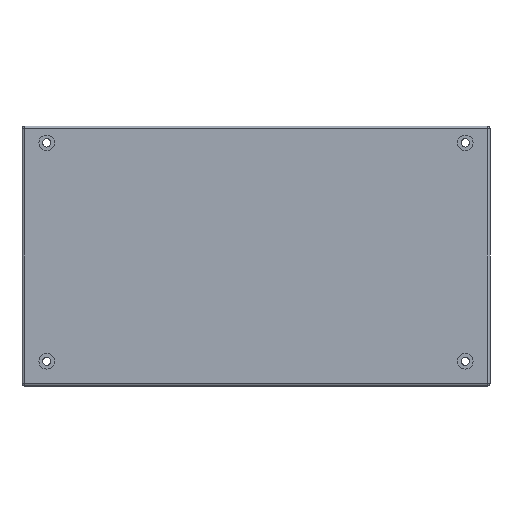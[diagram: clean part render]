
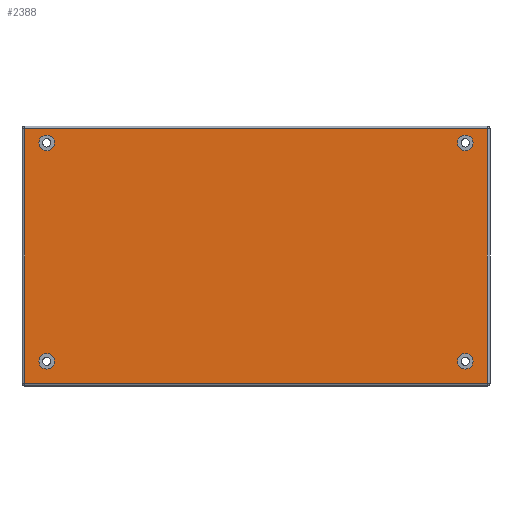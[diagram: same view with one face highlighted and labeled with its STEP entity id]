
A CAD part, front view. The second image highlights one B-rep face of the part: STEP entity #2388.
In plain terms, the highlighted planar face has unit normal (0, -1, 0).
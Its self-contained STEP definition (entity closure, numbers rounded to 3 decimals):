
#34 = CARTESIAN_POINT ( 'NONE',  ( 0., 0., 0. ) ) ;
#75 = DIRECTION ( 'NONE',  ( 0., 0., -1. ) ) ;
#102 = ORIENTED_EDGE ( 'NONE', *, *, #1870, .F. ) ;
#172 = ORIENTED_EDGE ( 'NONE', *, *, #2881, .F. ) ;
#174 = EDGE_CURVE ( 'NONE', #2282, #2298, #2022, .T. ) ;
#187 = CARTESIAN_POINT ( 'NONE',  ( -90., 0., 49. ) ) ;
#253 = EDGE_LOOP ( 'NONE', ( #3652, #172 ) ) ;
#306 = AXIS2_PLACEMENT_3D ( 'NONE', #323, #1641, #2573 ) ;
#323 = CARTESIAN_POINT ( 'NONE',  ( 80.5, 0., 43.5 ) ) ;
#365 = FACE_BOUND ( 'NONE', #937, .T. ) ;
#366 = ORIENTED_EDGE ( 'NONE', *, *, #756, .F. ) ;
#407 = ORIENTED_EDGE ( 'NONE', *, *, #2855, .F. ) ;
#415 = AXIS2_PLACEMENT_3D ( 'NONE', #3696, #3107, #75 ) ;
#422 = EDGE_CURVE ( 'NONE', #2130, #2420, #3293, .T. ) ;
#432 = VECTOR ( 'NONE', #2194, 1000. ) ;
#494 = CARTESIAN_POINT ( 'NONE',  ( -80.5, 0., 40.5 ) ) ;
#756 = EDGE_CURVE ( 'NONE', #2298, #2282, #2425, .T. ) ;
#764 = DIRECTION ( 'NONE',  ( 0., 0., 1. ) ) ;
#811 = VERTEX_POINT ( 'NONE', #494 ) ;
#866 = EDGE_CURVE ( 'NONE', #887, #2130, #1722, .T. ) ;
#887 = VERTEX_POINT ( 'NONE', #1079 ) ;
#935 = AXIS2_PLACEMENT_3D ( 'NONE', #4348, #2931, #4254 ) ;
#937 = EDGE_LOOP ( 'NONE', ( #2259, #102 ) ) ;
#951 = EDGE_LOOP ( 'NONE', ( #1349, #4182, #1715, #2536 ) ) ;
#1025 = FACE_BOUND ( 'NONE', #253, .T. ) ;
#1079 = CARTESIAN_POINT ( 'NONE',  ( -89., 0., 49. ) ) ;
#1089 = DIRECTION ( 'NONE',  ( 0., -1., 0. ) ) ;
#1146 = CIRCLE ( 'NONE', #306, 3. ) ;
#1196 = DIRECTION ( 'NONE',  ( 0., -1., 0. ) ) ;
#1197 = CARTESIAN_POINT ( 'NONE',  ( 89., 0., 49. ) ) ;
#1227 = VERTEX_POINT ( 'NONE', #3221 ) ;
#1276 = AXIS2_PLACEMENT_3D ( 'NONE', #1292, #1597, #2961 ) ;
#1292 = CARTESIAN_POINT ( 'NONE',  ( -80.5, 0., -40.5 ) ) ;
#1349 = ORIENTED_EDGE ( 'NONE', *, *, #4187, .T. ) ;
#1389 = VECTOR ( 'NONE', #2945, 1000. ) ;
#1398 = EDGE_CURVE ( 'NONE', #2964, #1227, #4350, .T. ) ;
#1402 = AXIS2_PLACEMENT_3D ( 'NONE', #1456, #2497, #2440 ) ;
#1456 = CARTESIAN_POINT ( 'NONE',  ( 80.5, 0., 43.5 ) ) ;
#1513 = ORIENTED_EDGE ( 'NONE', *, *, #174, .F. ) ;
#1531 = DIRECTION ( 'NONE',  ( -1., 0., 0. ) ) ;
#1532 = CIRCLE ( 'NONE', #1402, 3. ) ;
#1597 = DIRECTION ( 'NONE',  ( 0., -1., 0. ) ) ;
#1641 = DIRECTION ( 'NONE',  ( 0., -1., 0. ) ) ;
#1715 = ORIENTED_EDGE ( 'NONE', *, *, #866, .T. ) ;
#1722 = LINE ( 'NONE', #4189, #432 ) ;
#1817 = AXIS2_PLACEMENT_3D ( 'NONE', #1950, #1196, #3300 ) ;
#1870 = EDGE_CURVE ( 'NONE', #3496, #3843, #1146, .T. ) ;
#1933 = EDGE_CURVE ( 'NONE', #2111, #811, #3894, .T. ) ;
#1950 = CARTESIAN_POINT ( 'NONE',  ( 80.5, 0., -40.5 ) ) ;
#2022 = CIRCLE ( 'NONE', #2651, 3. ) ;
#2041 = CARTESIAN_POINT ( 'NONE',  ( -80.5, 0., 43.5 ) ) ;
#2048 = FACE_BOUND ( 'NONE', #4240, .T. ) ;
#2111 = VERTEX_POINT ( 'NONE', #2468 ) ;
#2124 = CARTESIAN_POINT ( 'NONE',  ( 80.5, 0., 40.5 ) ) ;
#2130 = VERTEX_POINT ( 'NONE', #2525 ) ;
#2176 = CIRCLE ( 'NONE', #4200, 3. ) ;
#2194 = DIRECTION ( 'NONE',  ( 0., 0., -1. ) ) ;
#2236 = CARTESIAN_POINT ( 'NONE',  ( -80.5, 0., -43.5 ) ) ;
#2259 = ORIENTED_EDGE ( 'NONE', *, *, #2918, .F. ) ;
#2279 = ORIENTED_EDGE ( 'NONE', *, *, #1933, .F. ) ;
#2282 = VERTEX_POINT ( 'NONE', #2236 ) ;
#2290 = LINE ( 'NONE', #3118, #3351 ) ;
#2298 = VERTEX_POINT ( 'NONE', #2904 ) ;
#2388 = ADVANCED_FACE ( 'NONE', ( #3766, #2048, #1025, #365, #2708 ), #3396, .T. ) ;
#2402 = CARTESIAN_POINT ( 'NONE',  ( 89., 0., -49. ) ) ;
#2420 = VERTEX_POINT ( 'NONE', #2402 ) ;
#2425 = CIRCLE ( 'NONE', #1276, 3. ) ;
#2440 = DIRECTION ( 'NONE',  ( 0., 0., -1. ) ) ;
#2444 = DIRECTION ( 'NONE',  ( 0., 0., -1. ) ) ;
#2468 = CARTESIAN_POINT ( 'NONE',  ( -80.5, 0., 46.5 ) ) ;
#2497 = DIRECTION ( 'NONE',  ( 0., -1., 0. ) ) ;
#2525 = CARTESIAN_POINT ( 'NONE',  ( -89., 0., -49. ) ) ;
#2533 = CARTESIAN_POINT ( 'NONE',  ( 80.5, 0., 46.5 ) ) ;
#2536 = ORIENTED_EDGE ( 'NONE', *, *, #422, .T. ) ;
#2573 = DIRECTION ( 'NONE',  ( 0., 0., -1. ) ) ;
#2586 = CARTESIAN_POINT ( 'NONE',  ( 90., 0., -49. ) ) ;
#2651 = AXIS2_PLACEMENT_3D ( 'NONE', #3321, #4338, #2685 ) ;
#2685 = DIRECTION ( 'NONE',  ( 0., 0., -1. ) ) ;
#2708 = FACE_BOUND ( 'NONE', #3842, .T. ) ;
#2855 = EDGE_CURVE ( 'NONE', #811, #2111, #2176, .T. ) ;
#2881 = EDGE_CURVE ( 'NONE', #1227, #2964, #3517, .T. ) ;
#2904 = CARTESIAN_POINT ( 'NONE',  ( -80.5, 0., -37.5 ) ) ;
#2918 = EDGE_CURVE ( 'NONE', #3843, #3496, #1532, .T. ) ;
#2931 = DIRECTION ( 'NONE',  ( 0., -1., 0. ) ) ;
#2945 = DIRECTION ( 'NONE',  ( 1., 0., 0. ) ) ;
#2961 = DIRECTION ( 'NONE',  ( 0., 0., -1. ) ) ;
#2964 = VERTEX_POINT ( 'NONE', #4107 ) ;
#3107 = DIRECTION ( 'NONE',  ( 0., -1., 0. ) ) ;
#3118 = CARTESIAN_POINT ( 'NONE',  ( 89., 0., 50. ) ) ;
#3196 = AXIS2_PLACEMENT_3D ( 'NONE', #34, #1089, #2444 ) ;
#3221 = CARTESIAN_POINT ( 'NONE',  ( 80.5, 0., -37.5 ) ) ;
#3293 = LINE ( 'NONE', #2586, #1389 ) ;
#3300 = DIRECTION ( 'NONE',  ( 0., 0., -1. ) ) ;
#3321 = CARTESIAN_POINT ( 'NONE',  ( -80.5, 0., -40.5 ) ) ;
#3351 = VECTOR ( 'NONE', #764, 1000. ) ;
#3392 = DIRECTION ( 'NONE',  ( 0., -1., 0. ) ) ;
#3396 = PLANE ( 'NONE',  #3196 ) ;
#3496 = VERTEX_POINT ( 'NONE', #2533 ) ;
#3517 = CIRCLE ( 'NONE', #415, 3. ) ;
#3544 = EDGE_CURVE ( 'NONE', #3585, #887, #3873, .T. ) ;
#3585 = VERTEX_POINT ( 'NONE', #1197 ) ;
#3652 = ORIENTED_EDGE ( 'NONE', *, *, #1398, .F. ) ;
#3696 = CARTESIAN_POINT ( 'NONE',  ( 80.5, 0., -40.5 ) ) ;
#3762 = DIRECTION ( 'NONE',  ( 0., 0., -1. ) ) ;
#3766 = FACE_OUTER_BOUND ( 'NONE', #951, .T. ) ;
#3842 = EDGE_LOOP ( 'NONE', ( #407, #2279 ) ) ;
#3843 = VERTEX_POINT ( 'NONE', #2124 ) ;
#3873 = LINE ( 'NONE', #187, #4147 ) ;
#3894 = CIRCLE ( 'NONE', #935, 3. ) ;
#4107 = CARTESIAN_POINT ( 'NONE',  ( 80.5, 0., -43.5 ) ) ;
#4147 = VECTOR ( 'NONE', #1531, 1000. ) ;
#4182 = ORIENTED_EDGE ( 'NONE', *, *, #3544, .T. ) ;
#4187 = EDGE_CURVE ( 'NONE', #2420, #3585, #2290, .T. ) ;
#4189 = CARTESIAN_POINT ( 'NONE',  ( -89., 0., -50. ) ) ;
#4200 = AXIS2_PLACEMENT_3D ( 'NONE', #2041, #3392, #3762 ) ;
#4240 = EDGE_LOOP ( 'NONE', ( #1513, #366 ) ) ;
#4254 = DIRECTION ( 'NONE',  ( 0., 0., -1. ) ) ;
#4338 = DIRECTION ( 'NONE',  ( 0., -1., 0. ) ) ;
#4348 = CARTESIAN_POINT ( 'NONE',  ( -80.5, 0., 43.5 ) ) ;
#4350 = CIRCLE ( 'NONE', #1817, 3. ) ;
